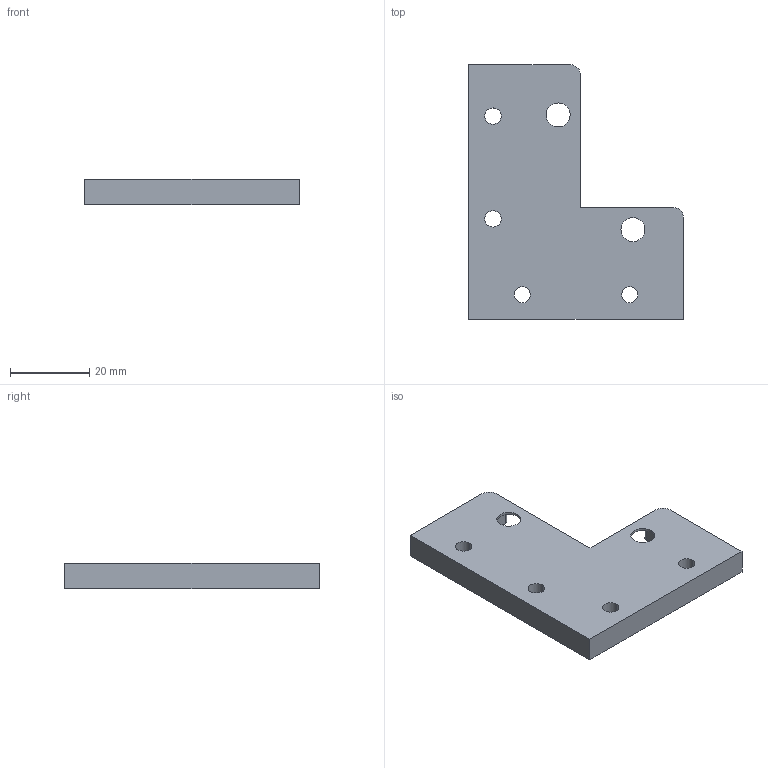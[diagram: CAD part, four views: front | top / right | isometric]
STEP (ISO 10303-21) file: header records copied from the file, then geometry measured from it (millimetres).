
FILE_DESCRIPTION (( 'STEP AP203' ), '1' );
FILE_NAME ('Section_A2.STEP', '2026-07-26T18:22:19', ( '' ), ( '' ), 'SwSTEP 2.0', 'SolidWorks 2024', '' );
FILE_SCHEMA (( 'CONFIG_CONTROL_DESIGN' ));
Length unit declared in the file: inch
Products named in the file (1): Section_A2
Bounding box: 54.19 x 64.17 x 6.35 mm (x, y, z)
Volume: 14427.3 mm3; surface area: 6856.6 mm2
Topology: 1 solids, 1 shells, 43 faces, 115 edges, 74 vertices
Faces by surface type: cylinder 21, plane 14, cone 8
Entity records: 1458 total; most frequent: DIRECTION 253, CARTESIAN_POINT 233, ORIENTED_EDGE 230, EDGE_CURVE 115, AXIS2_PLACEMENT_3D 94, VERTEX_POINT 74, LINE 65, VECTOR 65
